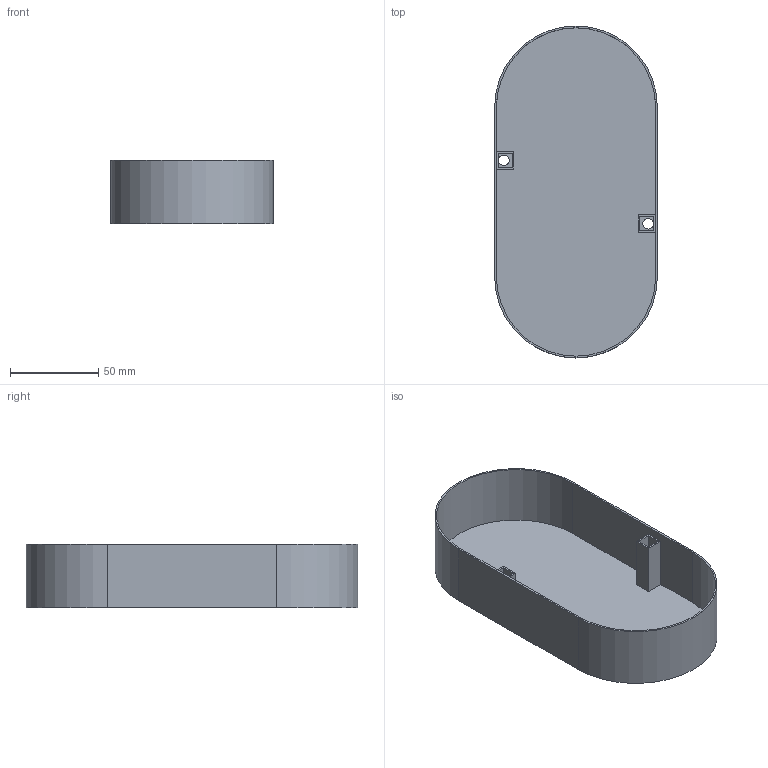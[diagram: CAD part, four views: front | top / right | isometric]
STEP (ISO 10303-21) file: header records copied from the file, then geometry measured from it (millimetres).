
FILE_DESCRIPTION (( 'STEP AP203' ), '1' );
FILE_NAME ('084.800.004.STEP', '2013-01-29T09:13:35', ( 'Alusic' ), ( 'Alusic' ), 'SwSTEP 2.0', 'SolidWorks 2011', '' );
FILE_SCHEMA (( 'CONFIG_CONTROL_DESIGN' ));
Length unit declared in the file: millimetre
Products named in the file (1): 084.800.004
Bounding box: 92.5 x 188.5 x 36 mm (x, y, z)
Volume: 34484.5 mm3; surface area: 68289.2 mm2
Topology: 1 solids, 1 shells, 33 faces, 84 edges, 56 vertices
Faces by surface type: plane 25, cylinder 8
Entity records: 1079 total; most frequent: CARTESIAN_POINT 174, DIRECTION 168, ORIENTED_EDGE 168, EDGE_CURVE 84, LINE 68, VECTOR 68, VERTEX_POINT 56, AXIS2_PLACEMENT_3D 50
